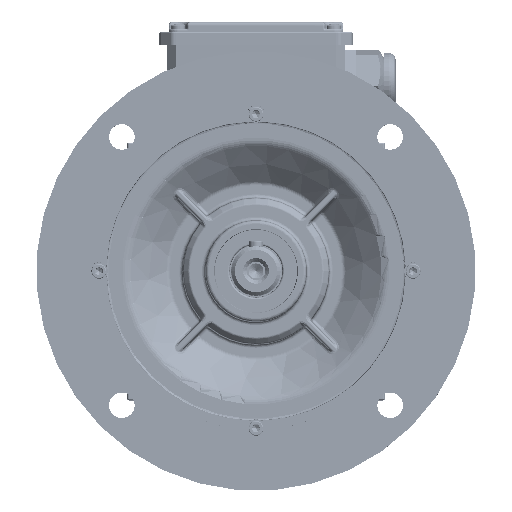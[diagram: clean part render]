
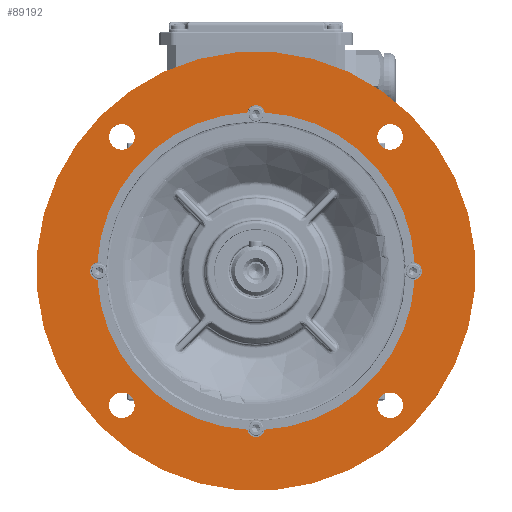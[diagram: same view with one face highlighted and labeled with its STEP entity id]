
A CAD part, top view. The second image highlights one B-rep face of the part: STEP entity #89192.
In plain terms, the highlighted planar face has unit normal (0, 0, 1).
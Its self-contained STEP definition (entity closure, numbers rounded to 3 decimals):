
#51811=PLANE('',#230145);
#89192=ADVANCED_FACE('',(#103410,#103411,#103412,#103413,#103414,#103415),
#51811,.T.);
#103410=FACE_BOUND('',#106037,.T.);
#103411=FACE_BOUND('',#106038,.T.);
#103412=FACE_BOUND('',#106039,.T.);
#103413=FACE_BOUND('',#106040,.T.);
#103414=FACE_BOUND('',#106041,.T.);
#103415=FACE_BOUND('',#106042,.T.);
#106037=EDGE_LOOP('',(#120903,#120904,#120905,#120906,#120907,#120908,#120909,
#120910));
#106038=EDGE_LOOP('',(#120911));
#106039=EDGE_LOOP('',(#120912));
#106040=EDGE_LOOP('',(#120913));
#106041=EDGE_LOOP('',(#120914));
#106042=EDGE_LOOP('',(#120915));
#120903=ORIENTED_EDGE('',*,*,#187592,.F.);
#120904=ORIENTED_EDGE('',*,*,#185900,.F.);
#120905=ORIENTED_EDGE('',*,*,#187593,.F.);
#120906=ORIENTED_EDGE('',*,*,#187591,.F.);
#120907=ORIENTED_EDGE('',*,*,#187594,.F.);
#120908=ORIENTED_EDGE('',*,*,#185908,.F.);
#120909=ORIENTED_EDGE('',*,*,#187595,.F.);
#120910=ORIENTED_EDGE('',*,*,#185888,.F.);
#120911=ORIENTED_EDGE('',*,*,#187596,.F.);
#120912=ORIENTED_EDGE('',*,*,#187597,.F.);
#120913=ORIENTED_EDGE('',*,*,#187598,.F.);
#120914=ORIENTED_EDGE('',*,*,#187599,.F.);
#120915=ORIENTED_EDGE('',*,*,#186080,.T.);
#170098=VERTEX_POINT('',#297269);
#170100=VERTEX_POINT('',#297272);
#170107=VERTEX_POINT('',#297297);
#170109=VERTEX_POINT('',#297301);
#170114=VERTEX_POINT('',#297323);
#170116=VERTEX_POINT('',#297326);
#170245=VERTEX_POINT('',#298553);
#171093=VERTEX_POINT('',#309690);
#171095=VERTEX_POINT('',#309694);
#171096=VERTEX_POINT('',#309702);
#171097=VERTEX_POINT('',#309704);
#171098=VERTEX_POINT('',#309706);
#171099=VERTEX_POINT('',#309708);
#185888=EDGE_CURVE('',#170098,#170100,#212158,.T.);
#185900=EDGE_CURVE('',#170109,#170107,#212165,.T.);
#185908=EDGE_CURVE('',#170114,#170116,#212170,.T.);
#186080=EDGE_CURVE('',#170245,#170245,#212201,.T.);
#187591=EDGE_CURVE('',#171095,#171093,#212737,.T.);
#187592=EDGE_CURVE('',#170107,#170098,#212738,.T.);
#187593=EDGE_CURVE('',#171093,#170109,#212739,.T.);
#187594=EDGE_CURVE('',#170116,#171095,#212740,.T.);
#187595=EDGE_CURVE('',#170100,#170114,#212741,.T.);
#187596=EDGE_CURVE('',#171096,#171096,#212742,.T.);
#187597=EDGE_CURVE('',#171097,#171097,#212743,.T.);
#187598=EDGE_CURVE('',#171098,#171098,#212744,.T.);
#187599=EDGE_CURVE('',#171099,#171099,#212745,.T.);
#212158=CIRCLE('',#229018,90.);
#212165=CIRCLE('',#229028,90.);
#212170=CIRCLE('',#229036,90.);
#212201=CIRCLE('',#229122,124.5);
#212737=CIRCLE('',#230135,90.);
#212738=CIRCLE('',#230137,5.);
#212739=CIRCLE('',#230138,5.);
#212740=CIRCLE('',#230139,5.);
#212741=CIRCLE('',#230140,5.);
#212742=CIRCLE('',#230141,7.25);
#212743=CIRCLE('',#230142,7.25);
#212744=CIRCLE('',#230143,7.25);
#212745=CIRCLE('',#230144,7.25);
#229018=AXIS2_PLACEMENT_3D('',#297271,#248786,#248787);
#229028=AXIS2_PLACEMENT_3D('',#297302,#248809,#248810);
#229036=AXIS2_PLACEMENT_3D('',#297325,#248826,#248827);
#229122=AXIS2_PLACEMENT_3D('',#298552,#249039,#249040);
#230135=AXIS2_PLACEMENT_3D('',#309695,#251371,#251372);
#230137=AXIS2_PLACEMENT_3D('',#309697,#251375,#251376);
#230138=AXIS2_PLACEMENT_3D('',#309698,#251377,#251378);
#230139=AXIS2_PLACEMENT_3D('',#309699,#251379,#251380);
#230140=AXIS2_PLACEMENT_3D('',#309700,#251381,#251382);
#230141=AXIS2_PLACEMENT_3D('',#309701,#251383,#251384);
#230142=AXIS2_PLACEMENT_3D('',#309703,#251385,#251386);
#230143=AXIS2_PLACEMENT_3D('',#309705,#251387,#251388);
#230144=AXIS2_PLACEMENT_3D('',#309707,#251389,#251390);
#230145=AXIS2_PLACEMENT_3D('',#309709,#251391,#251392);
#248786=DIRECTION('',(0.,0.,1.));
#248787=DIRECTION('',(-0.707,-0.707,0.));
#248809=DIRECTION('',(0.,0.,1.));
#248810=DIRECTION('',(-0.707,-0.707,0.));
#248826=DIRECTION('',(0.,0.,1.));
#248827=DIRECTION('',(-0.707,-0.707,0.));
#249039=DIRECTION('',(0.,0.,1.));
#249040=DIRECTION('',(-0.707,-0.707,0.));
#251371=DIRECTION('',(0.,0.,1.));
#251372=DIRECTION('',(-0.707,-0.707,0.));
#251375=DIRECTION('',(0.,0.,1.));
#251376=DIRECTION('',(-0.707,-0.707,0.));
#251377=DIRECTION('',(0.,0.,1.));
#251378=DIRECTION('',(-0.707,-0.707,0.));
#251379=DIRECTION('',(0.,0.,1.));
#251380=DIRECTION('',(-0.707,-0.707,0.));
#251381=DIRECTION('',(0.,0.,1.));
#251382=DIRECTION('',(-0.707,-0.707,0.));
#251383=DIRECTION('',(0.,0.,1.));
#251384=DIRECTION('',(-0.707,0.707,0.));
#251385=DIRECTION('',(0.,0.,1.));
#251386=DIRECTION('',(0.707,0.707,0.));
#251387=DIRECTION('',(0.,0.,1.));
#251388=DIRECTION('',(0.707,-0.707,0.));
#251389=DIRECTION('',(0.,0.,1.));
#251390=DIRECTION('',(-0.707,-0.707,0.));
#251391=DIRECTION('',(0.,0.,1.));
#251392=DIRECTION('',(-0.707,-0.707,0.));
#297269=CARTESIAN_POINT('',(4.925,-89.865,16.));
#297271=CARTESIAN_POINT('',(0.,0.,16.));
#297272=CARTESIAN_POINT('',(89.865,-4.925,16.));
#297297=CARTESIAN_POINT('',(-4.925,-89.865,16.));
#297301=CARTESIAN_POINT('',(-89.865,-4.925,16.));
#297302=CARTESIAN_POINT('',(0.,0.,16.));
#297323=CARTESIAN_POINT('',(89.865,4.925,16.));
#297325=CARTESIAN_POINT('',(0.,0.,16.));
#297326=CARTESIAN_POINT('',(4.925,89.865,16.));
#298552=CARTESIAN_POINT('',(0.,0.,16.));
#298553=CARTESIAN_POINT('',(-88.035,-88.035,16.));
#309690=CARTESIAN_POINT('',(-89.865,4.925,16.));
#309694=CARTESIAN_POINT('',(-4.925,89.865,16.));
#309695=CARTESIAN_POINT('',(0.,0.,16.));
#309697=CARTESIAN_POINT('',(0.,-89.,16.));
#309698=CARTESIAN_POINT('',(-89.,0.,16.));
#309699=CARTESIAN_POINT('',(0.,89.,16.));
#309700=CARTESIAN_POINT('',(89.,0.,16.));
#309701=CARTESIAN_POINT('',(-76.014,-76.014,16.));
#309702=CARTESIAN_POINT('',(-81.141,-70.887,16.));
#309703=CARTESIAN_POINT('',(-76.014,76.014,16.));
#309704=CARTESIAN_POINT('',(-70.887,81.141,16.));
#309705=CARTESIAN_POINT('',(76.014,76.014,16.));
#309706=CARTESIAN_POINT('',(81.141,70.887,16.));
#309707=CARTESIAN_POINT('',(76.014,-76.014,16.));
#309708=CARTESIAN_POINT('',(70.887,-81.141,16.));
#309709=CARTESIAN_POINT('',(0.,0.,16.));
